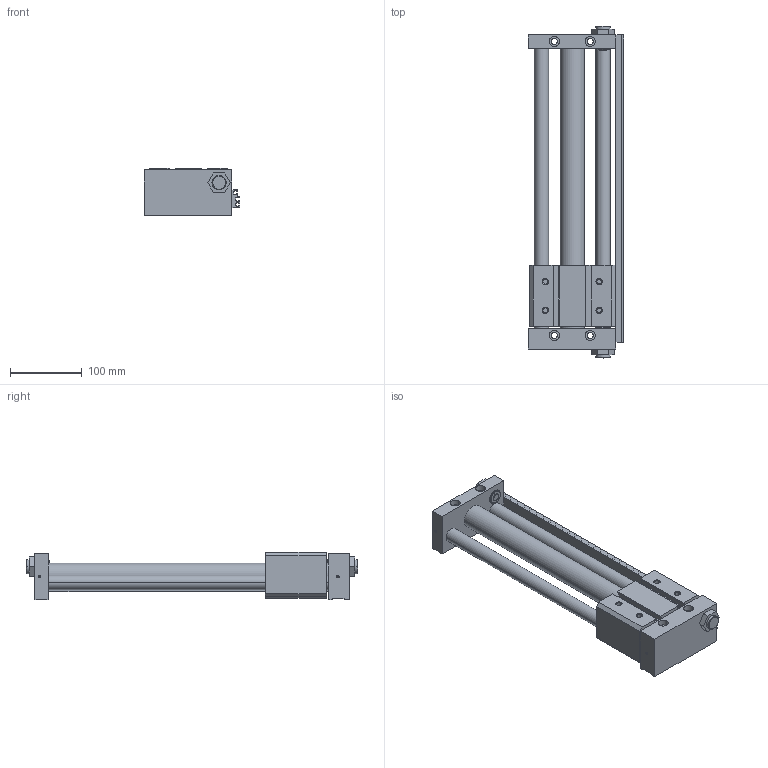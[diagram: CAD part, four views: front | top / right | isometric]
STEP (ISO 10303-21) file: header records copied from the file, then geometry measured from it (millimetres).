
FILE_DESCRIPTION((''),'2;1');
FILE_NAME('C:\Documents and Settings\Administrator\桌面\GYS\GYS32\GYSR32X300.stp','2012-03-06T20:18:22',('Administrator'),(''),'Autodesk Inventor 8','Autodesk Inventor 8','');
FILE_SCHEMA(('AUTOMOTIVE_DESIGN { 1 0 10303 214 1 1 1 1 }'));
Length unit declared in the file: millimetre
Products named in the file (3): GYSR32X300; GYS32X300; GYS32160X300
Assembly tree (2 placements, depth 2):
  GYSR32X300
    GYS32X300
    GYS32160X300
Bounding box: 132.5 x 463 x 66 mm (x, y, z)
Volume: 1486578.1 mm3; surface area: 224871.2 mm2
Topology: 2 solids, 2 shells, 291 faces, 770 edges, 504 vertices
Faces by surface type: plane 161, cylinder 96, cone 28, bspline 6
Entity records: 9200 total; most frequent: CARTESIAN_POINT 1644, DIRECTION 1598, ORIENTED_EDGE 1540, EDGE_CURVE 770, AXIS2_PLACEMENT_3D 538, VECTOR 522, LINE 522, VERTEX_POINT 504
